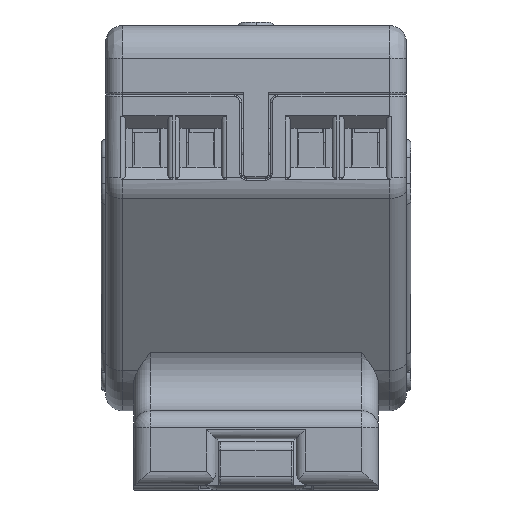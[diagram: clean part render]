
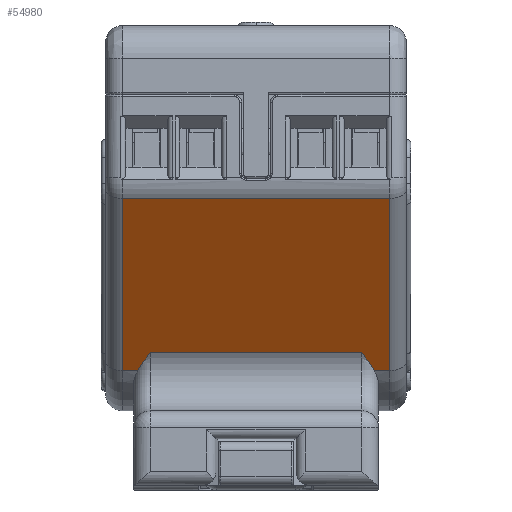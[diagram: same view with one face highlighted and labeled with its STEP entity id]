
A CAD part, left-side view. The second image highlights one B-rep face of the part: STEP entity #54980.
In plain terms, the highlighted planar face has unit normal (-0.824, 0, -0.566).
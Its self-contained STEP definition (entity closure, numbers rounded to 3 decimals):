
#7442=DIRECTION('',(-0.566,0.,0.824));
#7443=VECTOR('',#7442,22.446);
#7444=CARTESIAN_POINT('',(-9.533,14.35,-29.664));
#7445=LINE('',#7444,#7443);
#7484=DIRECTION('',(0.,1.,0.));
#7485=VECTOR('',#7484,28.7);
#7486=CARTESIAN_POINT('',(-22.247,-14.35,-11.166));
#7487=LINE('',#7486,#7485);
#17247=DIRECTION('',(0.,1.,0.));
#17248=VECTOR('',#17247,22.7);
#17249=CARTESIAN_POINT('',(-10.859,-11.35,-27.734));
#17250=LINE('',#17249,#17248);
#17255=DIRECTION('',(0.566,0.,-0.824));
#17256=VECTOR('',#17255,22.446);
#17257=CARTESIAN_POINT('',(-22.247,-14.35,-11.166));
#17258=LINE('',#17257,#17256);
#17509=DIRECTION('',(0.,-1.,0.));
#17510=VECTOR('',#17509,1.628);
#17511=CARTESIAN_POINT('',(-9.533,14.35,-29.664));
#17512=LINE('',#17511,#17510);
#17534=CARTESIAN_POINT('',(-9.533,12.722,
-29.664));
#17536=CARTESIAN_POINT('',(-9.533,12.722,
-29.664));
#17537=CARTESIAN_POINT('',(-9.628,12.65,
-29.526));
#17538=CARTESIAN_POINT('',(-9.826,12.485,
-29.238));
#17539=CARTESIAN_POINT('',(-10.146,12.168,
-28.772));
#17540=CARTESIAN_POINT('',(-10.488,11.789,
-28.274));
#17541=CARTESIAN_POINT('',(-10.732,11.5,
-27.919));
#17542=CARTESIAN_POINT('',(-10.859,11.35,-27.734));
#17568=CARTESIAN_POINT('',(-10.859,-11.35,-27.734));
#17569=CARTESIAN_POINT('',(-10.732,-11.5,
-27.919));
#17570=CARTESIAN_POINT('',(-10.488,-11.789,
-28.274));
#17571=CARTESIAN_POINT('',(-10.146,-12.168,
-28.772));
#17572=CARTESIAN_POINT('',(-9.826,-12.485,
-29.238));
#17573=CARTESIAN_POINT('',(-9.628,-12.65,
-29.526));
#17574=CARTESIAN_POINT('',(-9.533,-12.722,
-29.664));
#20589=DIRECTION('',(0.,-1.,0.));
#20590=VECTOR('',#20589,1.628);
#20591=CARTESIAN_POINT('',(-9.533,-12.722,
-29.664));
#20592=LINE('',#20591,#20590);
#25465=CARTESIAN_POINT('',(-10.859,-11.35,-27.734));
#25466=VERTEX_POINT('',#25465);
#25484=CARTESIAN_POINT('',(-10.859,11.35,-27.734));
#25485=VERTEX_POINT('',#25484);
#25492=VERTEX_POINT('',#17574);
#25493=VERTEX_POINT('',#17534);
#25886=CARTESIAN_POINT('',(-9.533,14.35,-29.664));
#25887=VERTEX_POINT('',#25886);
#25890=CARTESIAN_POINT('',(-22.247,14.35,-11.166));
#25891=VERTEX_POINT('',#25890);
#25914=CARTESIAN_POINT('',(-9.533,-14.35,-29.664));
#25915=VERTEX_POINT('',#25914);
#25918=CARTESIAN_POINT('',(-22.247,-14.35,-11.166));
#25919=VERTEX_POINT('',#25918);
#54959=CARTESIAN_POINT('',(-6.553,-16.15,-34.));
#54960=DIRECTION('',(-0.824,0.,-0.566));
#54961=DIRECTION('',(-0.566,0.,0.824));
#54962=AXIS2_PLACEMENT_3D('',#54959,#54960,#54961);
#54963=PLANE('',#54962);
#54965=ORIENTED_EDGE('',*,*,#54964,.T.);
#54967=ORIENTED_EDGE('',*,*,#54966,.F.);
#54969=ORIENTED_EDGE('',*,*,#54968,.F.);
#54971=ORIENTED_EDGE('',*,*,#54970,.T.);
#54973=ORIENTED_EDGE('',*,*,#54972,.F.);
#54975=ORIENTED_EDGE('',*,*,#54974,.F.);
#54976=ORIENTED_EDGE('',*,*,#41238,.T.);
#54977=ORIENTED_EDGE('',*,*,#41326,.F.);
#54978=EDGE_LOOP('',(#54965,#54967,#54969,#54971,#54973,#54975,#54976,#54977));
#54979=FACE_OUTER_BOUND('',#54978,.F.);
#54980=ADVANCED_FACE('',(#54979),#54963,.T.);
#17543=B_SPLINE_CURVE_WITH_KNOTS('',3,(#17536,#17537,#17538,#17539,#17540,
#17541,#17542),.UNSPECIFIED.,.F.,.F.,(4,1,1,1,4),(0.,0.25,0.5,0.75,
1.),.UNSPECIFIED.);
#17575=B_SPLINE_CURVE_WITH_KNOTS('',3,(#17568,#17569,#17570,#17571,#17572,
#17573,#17574),.UNSPECIFIED.,.F.,.F.,(4,1,1,1,4),(0.,0.25,0.5,0.75,
1.),.UNSPECIFIED.);
#41238=EDGE_CURVE('',#25887,#25891,#7445,.T.);
#41326=EDGE_CURVE('',#25919,#25891,#7487,.T.);
#54964=EDGE_CURVE('',#25919,#25915,#17258,.T.);
#54966=EDGE_CURVE('',#25492,#25915,#20592,.T.);
#54968=EDGE_CURVE('',#25466,#25492,#17575,.T.);
#54970=EDGE_CURVE('',#25466,#25485,#17250,.T.);
#54972=EDGE_CURVE('',#25493,#25485,#17543,.T.);
#54974=EDGE_CURVE('',#25887,#25493,#17512,.T.);
